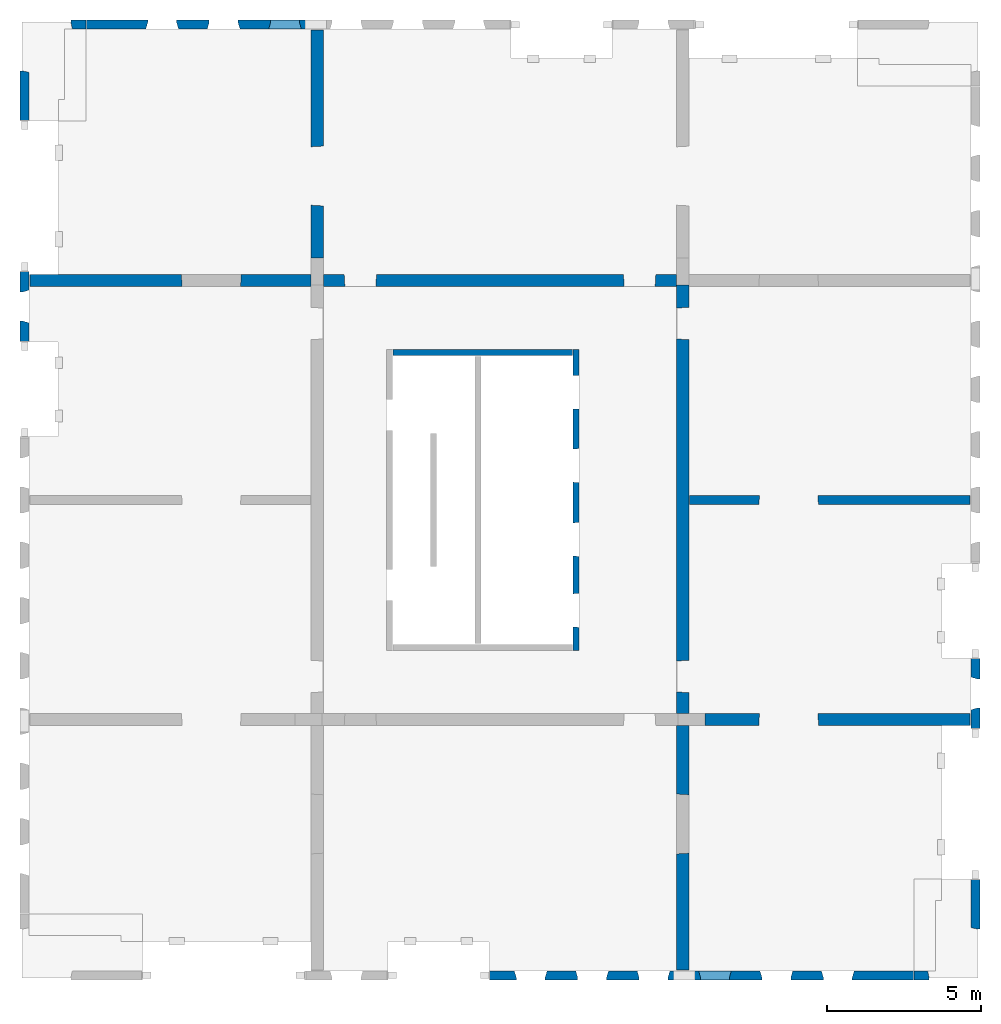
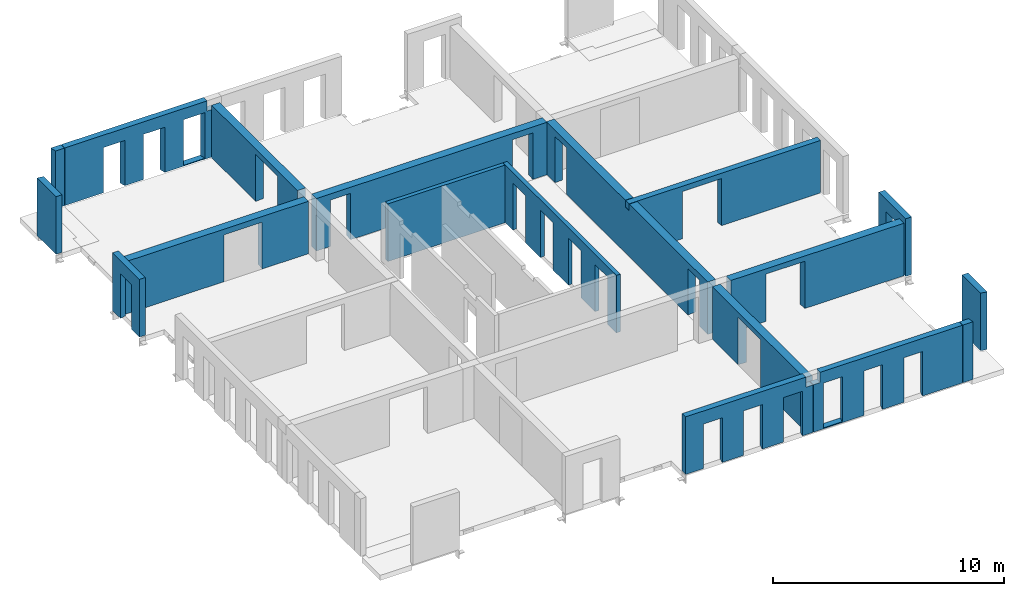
# One storey, part 3 of 4: 18 walls, 33 openings.
"""IFC2X3 building model written with IfcOpenShell, lengths in millimetres."""

import ifcopenshell
import ifcopenshell.guid

model = None  # the IFC model being written
_history = None  # IfcOwnerHistory: only IFC2X3 demands one
_inside = {}  # id of a spatial element -> (the spatial element, [elements in it])
_under = {}  # id of a project, library or spatial element -> (it, [spatial elements below it])
_declared = {}  # id of a project -> (the project, [libraries it declares])
_typed = {}  # id of a type object -> (the type object, [elements of that type])
_made_of = {}  # id of a material, layer set ... -> (it, [elements and type objects made of it])


def new_model(schema):
    """Start an empty IFC model of exactly this schema.

    Asked for "IFC4X3", IfcOpenShell would pick the latest addendum, in which some entities
    have other attributes; the version numbers below select the first issue.
    IFC2X3 requires an IfcOwnerHistory on every rooted entity: one is made here for all.
    """
    global model, _history
    if schema == "IFC4X3":
        model = ifcopenshell.file(schema_version=(4, 3, 0, 0))
    else:
        model = ifcopenshell.file(schema=schema)
    _inside.clear()
    _under.clear()
    _declared.clear()
    _typed.clear()
    _made_of.clear()
    _history = None
    if model.schema == "IFC2X3":
        org = make("IfcOrganization", Name="unknown")
        user = make(
            "IfcPersonAndOrganization",
            ThePerson=make("IfcPerson", FamilyName="unknown"),
            TheOrganization=org,
        )
        app = make(
            "IfcApplication",
            ApplicationDeveloper=org,
            Version="unknown",
            ApplicationFullName="unknown",
            ApplicationIdentifier="unknown",
        )
        _history = make(
            "IfcOwnerHistory",
            OwningUser=user,
            OwningApplication=app,
            ChangeAction="ADDED",
            CreationDate=0,
        )
    return model


def make(cls, **values):
    """One entity of the class cls with the attributes given. An attribute that is None is left unset."""
    return model.create_entity(
        cls, **{name: value for name, value in values.items() if value is not None}
    )


def entity(cls, *values):
    """Any entity or typed value of the class cls, its attributes in the order of the schema. None: left unset."""
    e = model.create_entity(cls)
    for i, value in enumerate(values):
        if value is not None:
            e[i] = value
    return e


def rooted(cls, **values):
    """An entity with a GlobalId (a new one), such as an element, a storey or a relation."""
    return make(cls, GlobalId=ifcopenshell.guid.new(), OwnerHistory=_history, **values)


def si_unit(unit_type, name, prefix=None):
    """IfcSIUnit, for example si_unit("LENGTHUNIT", "METRE", prefix="MILLI")."""
    return make("IfcSIUnit", UnitType=unit_type, Prefix=prefix, Name=name)


def converted_unit(unit_type, name, factor, base, dimensions=None, offset=None):
    """IfcConversionBasedUnit, such as the inch: factor (a typed value) times the base unit."""
    return make(
        "IfcConversionBasedUnit"
        if offset is None
        else "IfcConversionBasedUnitWithOffset",
        ConversionOffset=offset,
        Dimensions=None
        if dimensions is None
        else entity("IfcDimensionalExponents", *dimensions),
        UnitType=unit_type,
        Name=name,
        ConversionFactor=make(
            "IfcMeasureWithUnit", ValueComponent=factor, UnitComponent=base
        ),
    )


def derived_unit(unit_type, elements):
    """IfcDerivedUnit: a product of units, each with its exponent."""
    return make(
        "IfcDerivedUnit",
        Elements=[
            make("IfcDerivedUnitElement", Unit=unit, Exponent=power)
            for unit, power in elements
        ],
        UnitType=unit_type,
    )


def assignment(units):
    """IfcUnitAssignment: the units of a project."""
    return None if units is None else make("IfcUnitAssignment", Units=units)


def point(xyz):
    """IfcCartesianPoint."""
    return None if xyz is None else make("IfcCartesianPoint", Coordinates=xyz)


def direction(xyz):
    """IfcDirection."""
    return None if xyz is None else make("IfcDirection", DirectionRatios=xyz)


def frame(location, z_axis=None, x_axis=None):
    """IfcAxis2Placement3D, a coordinate frame: its origin and axes. An axis left out is left unset."""
    return make(
        "IfcAxis2Placement3D",
        Location=point(location),
        Axis=direction(z_axis),
        RefDirection=direction(x_axis),
    )


def frame_2d(location, x_axis=None):
    """IfcAxis2Placement2D, a coordinate frame in the plane: its origin and x axis."""
    return make(
        "IfcAxis2Placement2D", Location=point(location), RefDirection=direction(x_axis)
    )


def origin():
    """The frame at (0, 0, 0) with its axes left unset."""
    return frame((0.0, 0.0, 0.0))


def origin_2d_with_axis():
    """The frame at (0, 0) in the plane with the x axis (1, 0) written out."""
    return frame_2d((0.0, 0.0), x_axis=(1.0, 0.0))


def place(relative_to, where):
    """IfcLocalPlacement: puts the frame where relative to a parent placement (None: the world)."""
    return make(
        "IfcLocalPlacement", PlacementRelTo=relative_to, RelativePlacement=where
    )


def context(
    kind, dimensions, precision=None, world=None, true_north=None, identifier=None
):
    """IfcGeometricRepresentationContext, for example the 3D "Model" context."""
    return make(
        "IfcGeometricRepresentationContext",
        ContextIdentifier=identifier,
        ContextType=kind,
        CoordinateSpaceDimension=dimensions,
        Precision=precision,
        WorldCoordinateSystem=world,
        TrueNorth=true_north,
    )


def subcontext(parent, identifier, kind, view, scale=None):
    """IfcGeometricRepresentationSubContext, for example "Body" below "Model"."""
    return make(
        "IfcGeometricRepresentationSubContext",
        ContextIdentifier=identifier,
        ContextType=kind,
        ParentContext=parent,
        TargetScale=scale,
        TargetView=view,
    )


def project(units=None, contexts=None):
    """IfcProject with its units and contexts."""
    return rooted(
        "IfcProject",
        Name="project",
        RepresentationContexts=contexts,
        UnitsInContext=assignment(units),
    )


def spatial(cls, under=None, at=None, **own):
    """A site, building, storey or space (cls), placed at a placement, below another one or the project."""
    s = rooted(cls, ObjectPlacement=at, **own)
    if under is not None:
        _under.setdefault(under.id(), (under, []))[1].append(s)
    return s


def profile(cls, at=None, kind="AREA", **sizes):
    """A parametric profile (cls). Its sizes go by their IFC names, for example OverallWidth=200.0."""
    return make(cls, ProfileType=kind, Position=at, **sizes)


def rectangle(**sizes):
    """IfcRectangleProfileDef."""
    return profile("IfcRectangleProfileDef", **sizes)


def extrude(swept, where, along, depth):
    """IfcExtrudedAreaSolid: the profile swept, set in the frame where, extruded along a direction by depth."""
    return make(
        "IfcExtrudedAreaSolid",
        SweptArea=swept,
        Position=where,
        ExtrudedDirection=direction(along),
        Depth=depth,
    )


def faces_of(points, faces, orient=None, outer=None):
    """IfcFace entities. A face is a list of loops; a loop is a list of indices into points, from 0.

    orient and outer hold one flag for each loop. By default every Orientation is true, the
    first loop of a face is its IfcFaceOuterBound and the others are IfcFaceBound.
    """
    made = []
    for i, loops in enumerate(faces):
        bounds = []
        for j, loop in enumerate(loops):
            is_outer = j == 0 if outer is None else outer[i][j]
            bounds.append(
                make(
                    "IfcFaceOuterBound" if is_outer else "IfcFaceBound",
                    Bound=make("IfcPolyLoop", Polygon=[points[k] for k in loop]),
                    Orientation=True if orient is None else orient[i][j],
                )
            )
        made.append(make("IfcFace", Bounds=bounds))
    return made


def faceted_brep(points, faces, orient=None, outer=None, voids=None):
    """IfcFacetedBrep: a solid bounded by flat faces; with voids (closed shells), ...WithVoids."""
    shared = [point(p) for p in points]
    hull = make("IfcClosedShell", CfsFaces=faces_of(shared, faces, orient, outer))
    if voids is None:
        return make("IfcFacetedBrep", Outer=hull)
    return make(
        "IfcFacetedBrepWithVoids",
        Outer=hull,
        Voids=[
            make(cls, CfsFaces=faces_of(shared, fs, o, b)) for cls, fs, o, b in voids
        ],
    )


def shape(context_of_items, identifier, shape_type, items):
    """IfcShapeRepresentation: the items that make up one representation, for example the "Body"."""
    return make(
        "IfcShapeRepresentation",
        ContextOfItems=context_of_items,
        RepresentationIdentifier=identifier,
        RepresentationType=shape_type,
        Items=items,
    )


def material(Name=None, Category=None):
    """IfcMaterial."""
    return make("IfcMaterial", Name=Name, Category=Category)


def layer(
    of_material, thickness, ventilated=None, Name=None, Category=None, Priority=None
):
    """IfcMaterialLayer: one layer of a wall or slab, of a material (None: an air gap)."""
    return make(
        "IfcMaterialLayer",
        Material=of_material,
        LayerThickness=thickness,
        IsVentilated=ventilated,
        Name=Name,
        Category=Category,
        Priority=Priority,
    )


def layer_set(layers, Name=None):
    """IfcMaterialLayerSet."""
    return make("IfcMaterialLayerSet", MaterialLayers=layers, LayerSetName=Name)


def layer_usage(for_layer_set, set_direction, sense, offset, extent=None):
    """IfcMaterialLayerSetUsage: how a layer set lies in its element."""
    return make(
        "IfcMaterialLayerSetUsage",
        ForLayerSet=for_layer_set,
        LayerSetDirection=set_direction,
        DirectionSense=sense,
        OffsetFromReferenceLine=offset,
        ReferenceExtent=extent,
    )


def made_of(thing, what):
    """Note that an element or type object is made of a material, layer set ...; save() writes the relation."""
    if what is not None:
        _made_of.setdefault(what.id(), (what, []))[1].append(thing)
    return thing


def type_object(cls, material=None, **own):
    """A type object (cls), such as IfcWallType, which elements share."""
    return made_of(rooted(cls, **own), material)


def element(
    cls,
    number,
    at=None,
    inside=None,
    cuts=None,
    type_object=None,
    material=None,
    context=None,
    identifier="Body",
    shape_type=None,
    held_by="IfcProductDefinitionShape",
    body=None,
    shapes=None,
    **own,
):
    """One element of the class cls, such as IfcWall. Its Tag is "e" and its number.

    at: its placement. inside: the storey or other place that contains it. cuts: it is an
    opening in that element (IfcRelVoidsElement). A single representation is given by context,
    identifier, shape_type and body (its items); several are given by shapes. held_by: the class
    of the entity that holds the representations. save() writes the other relations.
    """
    e = rooted(cls, Tag="e%d" % number, ObjectPlacement=at, **own)
    if body is not None:
        shapes = [shape(context, identifier, shape_type, body)]
    if shapes is not None:
        e.Representation = make(held_by, Representations=shapes)
    if inside is not None:
        _inside.setdefault(inside.id(), (inside, []))[1].append(e)
    if cuts is not None:
        rooted(
            "IfcRelVoidsElement", RelatingBuildingElement=cuts, RelatedOpeningElement=e
        )
    if type_object is not None:
        _typed.setdefault(type_object.id(), (type_object, []))[1].append(e)
    return made_of(e, material)


def aggregate(whole, parts):
    """IfcRelAggregates: a whole, such as a stair, and the parts it consists of."""
    return rooted("IfcRelAggregates", RelatingObject=whole, RelatedObjects=parts)


def save(model, path):
    """Write the relations noted so far, then the file.

    IfcRelAggregates (storeys below a building ...), IfcRelContainedInSpatialStructure (elements
    in a storey), IfcRelDefinesByType, IfcRelAssociatesMaterial and IfcRelDeclares: one each for
    every whole, place, type object, material and project.
    """
    for whole, parts in _under.values():
        aggregate(whole, parts)
    for where, things in _inside.values():
        rooted(
            "IfcRelContainedInSpatialStructure",
            RelatedElements=things,
            RelatingStructure=where,
        )
    for kind, things in _typed.values():
        rooted("IfcRelDefinesByType", RelatedObjects=things, RelatingType=kind)
    for what, things in _made_of.values():
        rooted("IfcRelAssociatesMaterial", RelatedObjects=things, RelatingMaterial=what)
    for by, libraries in _declared.values():
        rooted("IfcRelDeclares", RelatingContext=by, RelatedDefinitions=libraries)
    model.write(path)


model = new_model("IFC2X3")

# Units and contexts
model_context = context("Model", 3, precision=0.01, world=origin(), true_north=direction((6.12303176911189e-17, 1.0)))
body_context = subcontext(model_context, "Body", "Model", "MODEL_VIEW")
ifc_project = project(units=[si_unit("LENGTHUNIT", "METRE", prefix="MILLI"), si_unit("AREAUNIT", "SQUARE_METRE"), si_unit("VOLUMEUNIT", "CUBIC_METRE"), converted_unit("PLANEANGLEUNIT", "DEGREE", entity("IfcRatioMeasure", 0.0174532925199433), si_unit("PLANEANGLEUNIT", "RADIAN"), dimensions=[0, 0, 0, 0, 0, 0, 0]), si_unit("MASSUNIT", "GRAM", prefix="KILO"), derived_unit("MASSDENSITYUNIT", [(si_unit("MASSUNIT", "GRAM", prefix="KILO"), 1), (si_unit("LENGTHUNIT", "METRE"), -3)]), si_unit("TIMEUNIT", "SECOND"), si_unit("FREQUENCYUNIT", "HERTZ"), si_unit("THERMODYNAMICTEMPERATUREUNIT", "DEGREE_CELSIUS"), derived_unit("THERMALTRANSMITTANCEUNIT", [(si_unit("MASSUNIT", "GRAM", prefix="KILO"), 1), (si_unit("THERMODYNAMICTEMPERATUREUNIT", "KELVIN"), -1), (si_unit("TIMEUNIT", "SECOND"), -3)]), derived_unit("VOLUMETRICFLOWRATEUNIT", [(si_unit("LENGTHUNIT", "METRE"), 3), (si_unit("TIMEUNIT", "SECOND"), -1)]), si_unit("ELECTRICCURRENTUNIT", "AMPERE"), si_unit("ELECTRICVOLTAGEUNIT", "VOLT"), si_unit("POWERUNIT", "WATT"), si_unit("FORCEUNIT", "NEWTON", prefix="KILO"), si_unit("ILLUMINANCEUNIT", "LUX"), si_unit("LUMINOUSFLUXUNIT", "LUMEN"), si_unit("LUMINOUSINTENSITYUNIT", "CANDELA"), derived_unit("USERDEFINED", [(si_unit("MASSUNIT", "GRAM", prefix="KILO"), -1), (si_unit("LENGTHUNIT", "METRE"), -2), (si_unit("TIMEUNIT", "SECOND"), 3), (si_unit("LUMINOUSFLUXUNIT", "LUMEN"), 1)]), derived_unit("LINEARVELOCITYUNIT", [(si_unit("LENGTHUNIT", "METRE"), 1), (si_unit("TIMEUNIT", "SECOND"), -1)]), si_unit("PRESSUREUNIT", "PASCAL"), derived_unit("USERDEFINED", [(si_unit("LENGTHUNIT", "METRE"), -2), (si_unit("MASSUNIT", "GRAM", prefix="KILO"), 1), (si_unit("TIMEUNIT", "SECOND"), -2)])], contexts=[model_context])

# Site, building, storey
site_placement = place(None, origin())
site = spatial("IfcSite", under=ifc_project, at=site_placement, Name="Default", CompositionType="ELEMENT")
building_placement = place(site_placement, origin())
building = spatial("IfcBuilding", under=site, at=building_placement, Name="niet gebruiken", CompositionType="ELEMENT")
storey_placement = place(building_placement, frame((0.0, 0.0, 82260.0)))
storey = spatial("IfcBuildingStorey", under=building, at=storey_placement, Name="26 zesentwintigste verdieping", CompositionType="ELEMENT", Elevation=82260.0000000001)

# Wall, openings
ifc_material = material(Name="NLRS_f2_beton prefab")
ifc_layer_1 = layer(ifc_material, 200.0)
ifc_layer_set_1 = layer_set([ifc_layer_1], Name="Basic Wall:NLRS_22.21_WA_beton prefab d=200_gen")
ifc_layer_usage_1 = layer_usage(ifc_layer_set_1, "AXIS2", "NEGATIVE", 100.0)
wall_type_1 = type_object("IfcWallType", Name="Basic Wall:NLRS_22.21_WA_beton prefab d=200_gen", PredefinedType="STANDARD", material=ifc_layer_set_1)
wall_1_placement = place(storey_placement, frame((144230.0, 22400.0, -50.0), z_axis=(0.0, 0.0, 1.0), x_axis=(0.0, -1.0, 0.0)))
wall_1 = element("IfcWallStandardCase", 1, at=wall_1_placement, inside=storey, type_object=wall_type_1, material=ifc_layer_usage_1, Name="Basic Wall:NLRS_22.21_WA_beton prefab d=200_gen", ObjectType="Basic Wall:NLRS_22.21_WA_beton prefab d=200_gen", context=body_context, shape_type="SweptSolid", body=[
    extrude(rectangle(XDim=9800.0, YDim=199.999999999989, at=frame_2d((4900.0, -3.69482222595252e-13), x_axis=(-1.0, 0.0))), origin(), (0.0, 0.0, 1.0), 3040.0),
])
opening_1_placement = place(wall_1_placement, frame((9047.0, -100.0, 0.0)))
element("IfcOpeningElement", 2, at=opening_1_placement, cuts=wall_1, Name="Basic Wall:NLRS_22.21_WA_beton prefab d=200_gen", ObjectType="Opening", context=body_context, shape_type="Brep", body=[
    faceted_brep([(-1104.0, 200.0, 2502.0), (-1104.0, 200.0, 0.0), (-1092.0, 0.0, 0.0), (-1092.0, 0.0, 2490.0), (0.0, 200.0, 0.0), (-12.0, 0.0, 0.0), (-12.0, 0.0, 2490.0), (0.0, 200.0, 2502.0)], [[[0, 1, 2, 3]], [[1, 4, 5, 2]], [[6, 3, 2, 5]], [[7, 4, 1, 0]], [[7, 0, 3, 6]], [[4, 7, 6, 5]]]),
])
opening_2_placement = place(wall_1_placement, frame((6737.0, -100.0, 0.0)))
element("IfcOpeningElement", 3, at=opening_2_placement, cuts=wall_1, Name="Basic Wall:NLRS_22.21_WA_beton prefab d=200_gen", ObjectType="Opening", context=body_context, shape_type="Brep", body=[
    faceted_brep([(-1104.0, 200.0, 2502.0), (-1104.0, 200.0, 0.0), (-1092.0, 0.0, 0.0), (-1092.0, 0.0, 2490.0), (0.0, 200.0, 0.0), (-12.0, 0.0, 0.0), (-12.0, 0.0, 2490.0), (0.0, 200.0, 2502.0)], [[[0, 1, 2, 3]], [[1, 4, 5, 2]], [[6, 3, 2, 5]], [[7, 4, 1, 0]], [[7, 0, 3, 6]], [[4, 7, 6, 5]]]),
])
opening_3_placement = place(wall_1_placement, frame((4332.0, -100.0, 0.0)))
element("IfcOpeningElement", 4, at=opening_3_placement, cuts=wall_1, Name="Basic Wall:NLRS_22.21_WA_beton prefab d=200_gen", ObjectType="Opening", context=body_context, shape_type="Brep", body=[
    faceted_brep([(-1104.0, 200.0, 2502.0), (-1104.0, 200.0, 0.0), (-1092.0, 0.0, 0.0), (-1092.0, 0.0, 2490.0), (0.0, 200.0, 0.0), (-12.0, 0.0, 0.0), (-12.0, 0.0, 2490.0), (0.0, 200.0, 2502.0)], [[[0, 1, 2, 3]], [[1, 4, 5, 2]], [[6, 3, 2, 5]], [[7, 4, 1, 0]], [[7, 0, 3, 6]], [[4, 7, 6, 5]]]),
])
opening_4_placement = place(wall_1_placement, frame((1942.0, -100.0, 0.0)))
element("IfcOpeningElement", 5, at=opening_4_placement, cuts=wall_1, Name="Basic Wall:NLRS_22.21_WA_beton prefab d=200_gen", ObjectType="Opening", context=body_context, shape_type="Brep", body=[
    faceted_brep([(-1104.0, 200.0, 2502.0), (-1104.0, 200.0, 0.0), (-1092.0, 0.0, 0.0), (-1092.0, 0.0, 2490.0), (0.0, 200.0, 0.0), (-12.0, 0.0, 0.0), (-12.0, 0.0, 2490.0), (0.0, 200.0, 2502.0)], [[[0, 1, 2, 3]], [[1, 4, 5, 2]], [[6, 3, 2, 5]], [[7, 4, 1, 0]], [[7, 0, 3, 6]], [[4, 7, 6, 5]]]),
])

# Wall
ifc_layer_usage_2 = layer_usage(ifc_layer_set_1, "AXIS2", "NEGATIVE", 100.0)
wall_2_placement = place(storey_placement, frame((138270.0, 22300.0, -50.0)))
element("IfcWallStandardCase", 6, at=wall_2_placement, inside=storey, type_object=wall_type_1, material=ifc_layer_usage_2, Name="Basic Wall:NLRS_22.21_WA_beton prefab d=200_gen", ObjectType="Basic Wall:NLRS_22.21_WA_beton prefab d=200_gen", context=body_context, shape_type="SweptSolid", body=[
    extrude(rectangle(XDim=5839.99999999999, YDim=199.999999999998, at=frame_2d((2919.99999999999, -7.60280727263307e-13), x_axis=(-1.0, 0.0))), origin(), (0.0, 0.0, 1.0), 3040.0),
])

# Wall, openings
ifc_layer_2 = layer(ifc_material, 300.0)
ifc_layer_set_2 = layer_set([ifc_layer_2], Name="Basic Wall:NLRS_22.21_WA_beton prefab d=300_gen")
ifc_layer_usage_3 = layer_usage(ifc_layer_set_2, "AXIS2", "NEGATIVE", 150.0)
wall_type_2 = type_object("IfcWallType", Name="Basic Wall:NLRS_22.21_WA_beton prefab d=300_gen", PredefinedType="STANDARD", material=ifc_layer_set_2)
wall_3_placement = place(storey_placement, frame((157060.0, 17500.0, -70.0), z_axis=(0.0, 0.0, 1.0), x_axis=(-1.0, 0.0, 0.0)))
wall_3 = element("IfcWallStandardCase", 7, at=wall_3_placement, inside=storey, type_object=wall_type_2, material=ifc_layer_usage_3, Name="Basic Wall:NLRS_22.21_WA_beton prefab d=300_gen", ObjectType="Basic Wall:NLRS_22.21_WA_beton prefab d=300_gen", context=body_context, shape_type="SweptSolid", body=[
    extrude(rectangle(XDim=9559.9999999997, YDim=300.000000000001, at=frame_2d((4779.99999999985, -1.84741111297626e-13), x_axis=(-1.0, 0.0))), origin(), (0.0, 0.0, 1.0), 2769.99999999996),
])
opening_5_placement = place(wall_3_placement, frame((6878.0, 150.0, 0.0)))
element("IfcOpeningElement", 8, at=opening_5_placement, cuts=wall_3, Name="Basic Wall:NLRS_22.21_WA_beton prefab d=300_gen", ObjectType="Opening", context=body_context, shape_type="Brep", body=[
    faceted_brep([(-18.0, -300.0, 2470.0), (-1918.0, -300.0, 2470.0), (-1918.0, -300.0, 0.0), (-18.0, -300.0, 0.0), (0.0, 0.0, 2488.0), (0.0, 0.0, 0.0), (-1936.0, 0.0, 0.0), (-1936.0, 0.0, 2488.0)], [[[0, 1, 2, 3]], [[4, 5, 6, 7]], [[4, 7, 1, 0]], [[7, 6, 2, 1]], [[6, 5, 3, 2]], [[5, 4, 0, 3]]]),
])
opening_6_placement = place(wall_3_placement, origin())
element("IfcOpeningElement", 9, at=opening_6_placement, cuts=wall_3, Name="Basic Wall:NLRS_22.21_WA_beton prefab d=300_gen", ObjectType="Opening", context=body_context, shape_type="SweptSolid", body=[
    extrude(rectangle(XDim=2439.99999999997, YDim=420.000000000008, at=frame_2d((0.0, 0.0), x_axis=(0.0, 1.0))), frame((9350.0, 150.0, 1220.0), z_axis=(0.0, -1.0, 0.0), x_axis=(1.0, 0.0, 0.0)), (0.0, 0.0, 1.0), 300.0),
])

# Wall, opening
ifc_layer_3 = layer(ifc_material, 400.0)
ifc_layer_set_3 = layer_set([ifc_layer_3], Name="Basic Wall:NLRS_22.21_WA_beton prefab d=400_gen")
ifc_layer_usage_4 = layer_usage(ifc_layer_set_3, "AXIS2", "NEGATIVE", 200.0)
wall_type_3 = type_object("IfcWallType", Name="Basic Wall:NLRS_22.21_WA_beton prefab d=400_gen", PredefinedType="STANDARD", material=ifc_layer_set_3)
wall_4_placement = place(storey_placement, frame((147700.0, 10150.0, -70.0), z_axis=(0.0, 0.0, 1.0), x_axis=(0.0, -1.0, 0.0)))
wall_4 = element("IfcWallStandardCase", 10, at=wall_4_placement, inside=storey, type_object=wall_type_3, material=ifc_layer_usage_4, Name="Basic Wall:NLRS_22.21_WA_beton prefab d=400_gen", ObjectType="Basic Wall:NLRS_22.21_WA_beton prefab d=400_gen", context=body_context, shape_type="SweptSolid", body=[
    extrude(rectangle(XDim=7960.00000000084, YDim=400.000000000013, at=frame_2d((3980.00000000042, -7.105427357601e-14), x_axis=(-1.0, 0.0))), origin(), (0.0, 0.0, 1.0), 2770.00000000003),
])
opening_7_placement = place(wall_4_placement, frame((4174.0, -200.0, 0.0)))
element("IfcOpeningElement", 11, at=opening_7_placement, cuts=wall_4, Name="Basic Wall:NLRS_22.21_WA_beton prefab d=400_gen", ObjectType="Opening", context=body_context, shape_type="Brep", body=[
    faceted_brep([(-24.0, 400.0, 2470.0), (-24.0, 400.0, 0.0), (-1924.0, 400.0, 0.0), (-1924.0, 400.0, 2470.0), (0.0, 0.0, 2494.0), (-1948.0, 0.0, 2494.0), (-1948.0, 0.0, 0.0), (0.0, 0.0, 0.0)], [[[0, 1, 2, 3]], [[4, 5, 6, 7]], [[4, 0, 3, 5]], [[5, 3, 2, 6]], [[6, 2, 1, 7]], [[7, 1, 0, 4]]]),
])

ifc_layer_usage_5 = layer_usage(ifc_layer_set_3, "AXIS2", "NEGATIVE", 200.0)
wall_5_placement = place(storey_placement, frame((135600.0, 24650.0, -70.0), z_axis=(0.0, 0.0, 1.0), x_axis=(-1.0, 0.0, 0.0)))
wall_5 = element("IfcWallStandardCase", 12, at=wall_5_placement, inside=storey, type_object=wall_type_3, material=ifc_layer_usage_5, Name="Basic Wall:NLRS_22.21_WA_beton prefab d=400_gen", ObjectType="Basic Wall:NLRS_22.21_WA_beton prefab d=400_gen", context=body_context, shape_type="SweptSolid", body=[
    extrude(rectangle(XDim=9159.99999999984, YDim=399.999999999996, at=frame_2d((4579.99999999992, -1.36424205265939e-12), x_axis=(-1.0, 0.0))), origin(), (0.0, 0.0, 1.0), 2770.00000000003),
])
opening_8_placement = place(wall_5_placement, frame((4224.0, 200.0, 0.0)))
element("IfcOpeningElement", 13, at=opening_8_placement, cuts=wall_5, Name="Basic Wall:NLRS_22.21_WA_beton prefab d=400_gen", ObjectType="Opening", context=body_context, shape_type="Brep", body=[
    faceted_brep([(-1924.0, 0.0, 2470.0), (-24.0, 0.0, 2470.0), (-24.0, 0.0, 0.0), (-1924.0, 0.0, 0.0), (-1948.0, -400.0, 2494.0), (-1948.0, -400.0, 0.0), (0.0, -400.0, 0.0), (0.0, -400.0, 2494.0)], [[[0, 1, 2, 3]], [[4, 5, 6, 7]], [[4, 7, 1, 0]], [[7, 6, 2, 1]], [[6, 5, 3, 2]], [[5, 4, 0, 3]]]),
])

ifc_layer_usage_6 = layer_usage(ifc_layer_set_3, "AXIS2", "NEGATIVE", 200.0)
wall_6_placement = place(storey_placement, frame((148430.0, 10350.0, -70.0)))
wall_6 = element("IfcWallStandardCase", 14, at=wall_6_placement, inside=storey, type_object=wall_type_3, material=ifc_layer_usage_6, Name="Basic Wall:NLRS_22.21_WA_beton prefab d=400_gen", ObjectType="Basic Wall:NLRS_22.21_WA_beton prefab d=400_gen", context=body_context, shape_type="SweptSolid", body=[
    extrude(rectangle(XDim=8630.00000000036, YDim=400.0, at=frame_2d((4315.00000000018, 0.0), x_axis=(-1.0, 0.0))), origin(), (0.0, 0.0, 1.0), 2770.00000000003),
])
opening_9_placement = place(wall_6_placement, frame((1746.0, -200.0, 0.0)))
element("IfcOpeningElement", 15, at=opening_9_placement, cuts=wall_6, Name="Basic Wall:NLRS_22.21_WA_beton prefab d=400_gen", ObjectType="Opening", context=body_context, shape_type="Brep", body=[
    faceted_brep([(24.0, 400.0, 2470.0), (1924.0, 400.0, 2470.0), (1924.0, 400.0, 0.0), (24.0, 400.0, 0.0), (0.0, 0.0, 2494.0), (0.0, 0.0, 0.0), (1948.0, 0.0, 0.0), (1948.0, 0.0, 2494.0)], [[[0, 1, 2, 3]], [[4, 5, 6, 7]], [[4, 7, 1, 0]], [[7, 6, 2, 1]], [[6, 5, 3, 2]], [[5, 4, 0, 3]]]),
])

ifc_layer_usage_7 = layer_usage(ifc_layer_set_3, "AXIS2", "NEGATIVE", 200.0)
wall_7_placement = place(storey_placement, frame((135800.0, 25380.0, -70.0), z_axis=(0.0, 0.0, 1.0), x_axis=(0.0, 1.0, 0.0)))
wall_7 = element("IfcWallStandardCase", 16, at=wall_7_placement, inside=storey, type_object=wall_type_3, material=ifc_layer_usage_7, Name="Basic Wall:NLRS_22.21_WA_beton prefab d=400_gen", ObjectType="Basic Wall:NLRS_22.21_WA_beton prefab d=400_gen", context=body_context, shape_type="SweptSolid", body=[
    extrude(rectangle(XDim=7430.00000000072, YDim=400.000000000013, at=frame_2d((3715.00000000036, -5.62749846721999e-12), x_axis=(-1.0, 0.0))), origin(), (0.0, 0.0, 1.0), 2770.00000000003),
])
opening_10_placement = place(wall_7_placement, frame((1696.0, 200.0, 0.0)))
element("IfcOpeningElement", 17, at=opening_10_placement, cuts=wall_7, Name="Basic Wall:NLRS_22.21_WA_beton prefab d=400_gen", ObjectType="Opening", context=body_context, shape_type="Brep", body=[
    faceted_brep([(1924.0, 0.0, 2470.0), (1924.0, 0.0, 0.0), (24.0, 0.0, 0.0), (24.0, 0.0, 2470.0), (1948.0, -400.0, 2494.0), (0.0, -400.0, 2494.0), (0.0, -400.0, 0.0), (1948.0, -400.0, 0.0)], [[[0, 1, 2, 3]], [[4, 5, 6, 7]], [[4, 0, 3, 5]], [[5, 3, 2, 6]], [[6, 2, 1, 7]], [[7, 1, 0, 4]]]),
])

# Wall, openings
ifc_layer_usage_8 = layer_usage(ifc_layer_set_3, "AXIS2", "NEGATIVE", 200.0)
wall_8_placement = place(storey_placement, frame((147700.0, 24500.0, -70.0), z_axis=(0.0, 0.0, 1.0), x_axis=(0.0, -1.0, 0.0)))
wall_8 = element("IfcWallStandardCase", 18, at=wall_8_placement, inside=storey, type_object=wall_type_3, material=ifc_layer_usage_8, Name="Basic Wall:NLRS_22.21_WA_beton prefab d=400_gen", ObjectType="Basic Wall:NLRS_22.21_WA_beton prefab d=400_gen", context=body_context, shape_type="SweptSolid", body=[
    extrude(rectangle(XDim=13949.9999999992, YDim=400.000000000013, at=frame_2d((6974.9999999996, 2.8421709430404e-14), x_axis=(-1.0, 0.0))), origin(), (0.0, 0.0, 1.0), 2770.00000000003),
])
opening_11_placement = place(wall_8_placement, frame((13274.0, -200.0, 0.0)))
element("IfcOpeningElement", 19, at=opening_11_placement, cuts=wall_8, Name="Basic Wall:NLRS_22.21_WA_beton prefab d=400_gen", ObjectType="Opening", context=body_context, shape_type="Brep", body=[
    faceted_brep([(-1054.0, 400.0, 2472.0), (-1054.0, 400.0, 0.0), (-1030.0, 0.0, 0.0), (-1030.0, 0.0, 2448.0), (0.0, 400.0, 0.0), (-24.0, 0.0, 0.0), (-24.0, 0.0, 2448.0), (0.0, 400.0, 2472.0)], [[[0, 1, 2, 3]], [[1, 4, 5, 2]], [[6, 3, 2, 5]], [[7, 4, 1, 0]], [[7, 0, 3, 6]], [[4, 7, 6, 5]]]),
])
opening_12_placement = place(wall_8_placement, frame((1780.0, -200.0, 0.0)))
element("IfcOpeningElement", 20, at=opening_12_placement, cuts=wall_8, Name="Basic Wall:NLRS_22.21_WA_beton prefab d=400_gen", ObjectType="Opening", context=body_context, shape_type="Brep", body=[
    faceted_brep([(-1054.0, 400.0, 2472.0), (-1054.0, 400.0, 0.0), (-1030.0, 0.0, 0.0), (-1030.0, 0.0, 2448.0), (0.0, 400.0, 0.0), (-24.0, 0.0, 0.0), (-24.0, 0.0, 2448.0), (0.0, 400.0, 2472.0)], [[[0, 1, 2, 3]], [[1, 4, 5, 2]], [[6, 3, 2, 5]], [[7, 4, 1, 0]], [[7, 0, 3, 6]], [[4, 7, 6, 5]]]),
])
opening_13_placement = place(wall_8_placement, origin())
element("IfcOpeningElement", 21, at=opening_13_placement, cuts=wall_8, Name="Basic Wall:NLRS_22.21_WA_beton prefab d=400_gen", ObjectType="Opening", context=body_context, shape_type="SweptSolid", body=[
    extrude(rectangle(XDim=350.000000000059, YDim=339.999999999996, at=frame_2d((0.0, 0.0), x_axis=(0.0, 1.0))), frame((7000.0, 200.0, 2595.0), z_axis=(0.0, -1.0, 0.0), x_axis=(-1.0, 0.0, 0.0)), (0.0, 0.0, 1.0), 400.0),
])

ifc_layer_usage_9 = layer_usage(ifc_layer_set_3, "AXIS2", "NEGATIVE", 200.0)
wall_9_placement = place(storey_placement, frame((136000.0, 24650.0, -70.0)))
wall_9 = element("IfcWallStandardCase", 22, at=wall_9_placement, inside=storey, type_object=wall_type_3, material=ifc_layer_usage_9, Name="Basic Wall:NLRS_22.21_WA_beton prefab d=400_gen", ObjectType="Basic Wall:NLRS_22.21_WA_beton prefab d=400_gen", context=body_context, shape_type="SweptSolid", body=[
    extrude(rectangle(XDim=11499.9999999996, YDim=400.000000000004, at=frame_2d((5749.99999999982, -1.09423581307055e-12), x_axis=(-1.0, 0.0))), origin(), (0.0, 0.0, 1.0), 2770.00000000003),
])
opening_14_placement = place(wall_9_placement, frame((676.0, -200.0, 0.0)))
element("IfcOpeningElement", 23, at=opening_14_placement, cuts=wall_9, Name="Basic Wall:NLRS_22.21_WA_beton prefab d=400_gen", ObjectType="Opening", context=body_context, shape_type="Brep", body=[
    faceted_brep([(0.0, 400.0, 2472.0), (0.0, 400.0, 0.0), (24.0, 0.0, 0.0), (24.0, 0.0, 2448.0), (1054.0, 400.0, 0.0), (1030.0, 0.0, 0.0), (1030.0, 0.0, 2448.0), (1054.0, 400.0, 2472.0)], [[[0, 1, 2, 3]], [[1, 4, 5, 2]], [[6, 3, 2, 5]], [[7, 4, 1, 0]], [[7, 0, 3, 6]], [[4, 7, 6, 5]]]),
])
opening_15_placement = place(wall_9_placement, frame((9770.0, -200.0, 0.0)))
element("IfcOpeningElement", 24, at=opening_15_placement, cuts=wall_9, Name="Basic Wall:NLRS_22.21_WA_beton prefab d=400_gen", ObjectType="Opening", context=body_context, shape_type="Brep", body=[
    faceted_brep([(0.0, 400.0, 2472.0), (0.0, 400.0, 0.0), (24.0, 0.0, 0.0), (24.0, 0.0, 2448.0), (1054.0, 400.0, 0.0), (1030.0, 0.0, 0.0), (1030.0, 0.0, 2448.0), (1054.0, 400.0, 2472.0)], [[[0, 1, 2, 3]], [[1, 4, 5, 2]], [[6, 3, 2, 5]], [[7, 4, 1, 0]], [[7, 0, 3, 6]], [[4, 7, 6, 5]]]),
])

# Wall, opening
ifc_layer_4 = layer(ifc_material, 300.0)
ifc_layer_set_4 = layer_set([ifc_layer_4], Name="Basic Wall:NLRS_21.21_WA_beton prefab d=300/320_gen")
ifc_layer_usage_10 = layer_usage(ifc_layer_set_4, "AXIS2", "NEGATIVE", 150.0)
wall_type_4 = type_object("IfcWallType", Name="Basic Wall:NLRS_21.21_WA_beton prefab d=300/320_gen", PredefinedType="STANDARD", material=ifc_layer_set_4)
wall_10_placement = place(storey_placement, frame((157230.0, 12360.0, -50.0), z_axis=(0.0, 0.0, 1.0), x_axis=(0.0, -1.0, 0.0)))
wall_10 = element("IfcWallStandardCase", 25, at=wall_10_placement, inside=storey, type_object=wall_type_4, material=ifc_layer_usage_10, Name="Basic Wall:NLRS_21.21_WA_beton prefab d=300/320_gen", ObjectType="Basic Wall:NLRS_21.21_WA_beton prefab d=300/320_gen", context=body_context, shape_type="SweptSolid", body=[
    extrude(rectangle(XDim=2320.00000000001, YDim=300.000000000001, at=frame_2d((1160.0, -8.38440428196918e-12), x_axis=(-1.0, 0.0))), origin(), (0.0, 0.0, 1.0), 3040.0),
])
opening_16_placement = place(wall_10_placement, frame((1695.0, -150.0, -20.0)))
element("IfcOpeningElement", 26, at=opening_16_placement, cuts=wall_10, Name="Basic Wall:NLRS_21.21_WA_beton prefab d=300/320_gen", ObjectType="Opening", context=body_context, shape_type="Brep", body=[
    faceted_brep([(-1070.0, 0.0, 2405.0), (-1070.0, 0.0, 0.0), (0.0, 0.0, 0.0), (0.0, 0.0, 2405.0), (-65.0, 219.0, 2370.0), (-1005.0, 219.0, 2370.0), (-65.0, 219.0, 0.0), (-1005.0, 219.0, 0.0), (-1005.0, 300.0, 0.0), (-65.0, 300.0, 0.0), (-1005.0, 300.0, 2370.0), (-65.0, 300.0, 2370.0)], [[[0, 1, 2, 3]], [[3, 4, 5, 0]], [[2, 6, 4, 3]], [[1, 7, 8, 9, 6, 2]], [[0, 5, 7, 1]], [[10, 11, 9, 8]], [[10, 5, 4, 11]], [[11, 4, 6, 9]], [[8, 7, 5, 10]]]),
])

ifc_layer_usage_11 = layer_usage(ifc_layer_set_4, "AXIS2", "NEGATIVE", 150.0)
wall_11_placement = place(storey_placement, frame((126270.0, 22640.0, -50.0), z_axis=(0.0, 0.0, 1.0), x_axis=(0.0, 1.0, 0.0)))
wall_11 = element("IfcWallStandardCase", 27, at=wall_11_placement, inside=storey, type_object=wall_type_4, material=ifc_layer_usage_11, Name="Basic Wall:NLRS_21.21_WA_beton prefab d=300/320_gen", ObjectType="Basic Wall:NLRS_21.21_WA_beton prefab d=300/320_gen", context=body_context, shape_type="SweptSolid", body=[
    extrude(rectangle(XDim=2320.0, YDim=300.000000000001, at=frame_2d((1160.0, -3.60955709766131e-12), x_axis=(-1.0, 0.0))), origin(), (0.0, 0.0, 1.0), 3040.0),
])
opening_17_placement = place(wall_11_placement, frame((625.0, 150.0, -20.0)))
element("IfcOpeningElement", 28, at=opening_17_placement, cuts=wall_11, Name="Basic Wall:NLRS_21.21_WA_beton prefab d=300/320_gen", ObjectType="Opening", context=body_context, shape_type="Brep", body=[
    faceted_brep([(0.0, -300.0, 2405.0), (0.0, -300.0, 0.0), (1070.0, -300.0, 0.0), (1070.0, -300.0, 2405.0), (1005.0, -81.0, 2370.0), (65.0, -81.0, 2370.0), (1005.0, -81.0, 0.0), (65.0, -81.0, 0.0), (65.0, 0.0, 0.0), (1005.0, 0.0, 0.0), (65.0, 0.0, 2370.0), (1005.0, 0.0, 2370.0)], [[[0, 1, 2, 3]], [[3, 4, 5, 0]], [[2, 6, 4, 3]], [[1, 7, 8, 9, 6, 2]], [[0, 5, 7, 1]], [[10, 11, 9, 8]], [[10, 5, 4, 11]], [[11, 4, 6, 9]], [[8, 7, 5, 10]]]),
])

# Wall, openings
ifc_layer_usage_12 = layer_usage(ifc_layer_set_4, "AXIS2", "NEGATIVE", 150.0)
wall_12_placement = place(storey_placement, frame((128290.0, 32980.0, -50.0)))
wall_12 = element("IfcWallStandardCase", 29, at=wall_12_placement, inside=storey, type_object=wall_type_4, material=ifc_layer_usage_12, Name="Basic Wall:NLRS_21.21_WA_beton prefab d=300/320_gen", ObjectType="Basic Wall:NLRS_21.21_WA_beton prefab d=300/320_gen", context=body_context, shape_type="SweptSolid", body=[
    extrude(rectangle(XDim=7449.9999999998, YDim=300.000000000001, at=frame_2d((3724.9999999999, 0.0), x_axis=(-1.0, 0.0))), origin(), (0.0, 0.0, 1.0), 3040.0),
])
opening_18_placement = place(wall_12_placement, frame((3925.0, -150.0, -20.0)))
element("IfcOpeningElement", 30, at=opening_18_placement, cuts=wall_12, Name="Basic Wall:NLRS_21.21_WA_beton prefab d=300/320_gen", ObjectType="Opening", context=body_context, shape_type="Brep", body=[
    faceted_brep([(1070.0, 0.0, 2405.0), (0.0, 0.0, 2405.0), (0.0, 0.0, 0.0), (1070.0, 0.0, 0.0), (1005.0, 219.0, 2370.0), (65.0, 219.0, 2370.0), (65.0, 219.0, 0.0), (65.0, 300.0, 0.0), (1005.0, 300.0, 0.0), (1005.0, 219.0, 0.0), (1005.0, 300.0, 2370.0), (65.0, 300.0, 2370.0)], [[[0, 1, 2, 3]], [[1, 0, 4, 5]], [[2, 1, 5, 6]], [[3, 2, 6, 7, 8, 9]], [[0, 3, 9, 4]], [[10, 8, 7, 11]], [[10, 11, 5, 4]], [[11, 7, 6, 5]], [[8, 10, 4, 9]]]),
])
opening_19_placement = place(wall_12_placement, frame((1925.0, -150.0, -20.0)))
element("IfcOpeningElement", 31, at=opening_19_placement, cuts=wall_12, Name="Basic Wall:NLRS_21.21_WA_beton prefab d=300/320_gen", ObjectType="Opening", context=body_context, shape_type="Brep", body=[
    faceted_brep([(1070.0, 0.0, 2405.0), (0.0, 0.0, 2405.0), (0.0, 0.0, 0.0), (1070.0, 0.0, 0.0), (1005.0, 219.0, 2370.0), (65.0, 219.0, 2370.0), (65.0, 219.0, 0.0), (65.0, 300.0, 0.0), (1005.0, 300.0, 0.0), (1005.0, 219.0, 0.0), (1005.0, 300.0, 2370.0), (65.0, 300.0, 2370.0)], [[[0, 1, 2, 3]], [[1, 0, 4, 5]], [[2, 1, 5, 6]], [[3, 2, 6, 7, 8, 9]], [[0, 3, 9, 4]], [[10, 8, 7, 11]], [[10, 11, 5, 4]], [[11, 7, 6, 5]], [[8, 10, 4, 9]]]),
])
opening_20_placement = place(wall_12_placement, frame((5925.0, -150.0, 50.0)))
element("IfcOpeningElement", 32, at=opening_20_placement, cuts=wall_12, Name="Basic Wall:NLRS_21.21_WA_beton prefab d=300/320_gen", ObjectType="Opening", context=body_context, shape_type="Brep", body=[
    faceted_brep([(1070.0, 0.0, 2405.0), (0.0, 0.0, 2405.0), (0.0, 0.0, 0.0), (1070.0, 0.0, 0.0), (1005.0, 219.0, 2370.0), (65.0, 219.0, 2370.0), (65.0, 219.0, 0.0), (65.0, 300.0, 0.0), (1005.0, 300.0, 0.0), (1005.0, 219.0, 0.0), (1005.0, 300.0, 2370.0), (65.0, 300.0, 2370.0)], [[[0, 1, 2, 3]], [[1, 0, 4, 5]], [[2, 1, 5, 6]], [[3, 2, 6, 7, 8, 9]], [[0, 3, 9, 4]], [[10, 8, 7, 11]], [[10, 11, 5, 4]], [[11, 7, 6, 5]], [[8, 10, 4, 9]]]),
])
opening_21_placement = place(wall_12_placement, origin())
element("IfcOpeningElement", 33, at=opening_21_placement, cuts=wall_12, Name="Basic Wall:NLRS_21.21_WA_beton prefab d=300/320_gen", ObjectType="Opening", context=body_context, shape_type="SweptSolid", body=[
    extrude(rectangle(XDim=535.0, YDim=344.999999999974, at=origin_2d_with_axis()), frame((7277.49999999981, 150.0, 2772.5), z_axis=(0.0, -1.0, 0.0), x_axis=(0.0, 0.0, 1.0)), (0.0, 0.0, 1.0), 300.0),
])

ifc_layer_usage_13 = layer_usage(ifc_layer_set_4, "AXIS2", "NEGATIVE", 150.0)
wall_13_placement = place(storey_placement, frame((155210.0, 2020.0, -50.0), z_axis=(0.0, 0.0, 1.0), x_axis=(-1.0, 0.0, 0.0)))
wall_13 = element("IfcWallStandardCase", 34, at=wall_13_placement, inside=storey, type_object=wall_type_4, material=ifc_layer_usage_13, Name="Basic Wall:NLRS_21.21_WA_beton prefab d=300/320_gen", ObjectType="Basic Wall:NLRS_21.21_WA_beton prefab d=300/320_gen", context=body_context, shape_type="SweptSolid", body=[
    extrude(rectangle(XDim=7449.99999999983, YDim=300.0, at=frame_2d((3724.99999999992, 5.6843418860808e-14), x_axis=(-1.0, 0.0))), origin(), (0.0, 0.0, 1.0), 3040.0),
])
opening_22_placement = place(wall_13_placement, frame((4995.0, 150.0, -20.0)))
element("IfcOpeningElement", 35, at=opening_22_placement, cuts=wall_13, Name="Basic Wall:NLRS_21.21_WA_beton prefab d=300/320_gen", ObjectType="Opening", context=body_context, shape_type="Brep", body=[
    faceted_brep([(0.0, -300.0, 2405.0), (-1070.0, -300.0, 2405.0), (-1070.0, -300.0, 0.0), (0.0, -300.0, 0.0), (-65.0, -81.0, 2370.0), (-1005.0, -81.0, 2370.0), (-1005.0, -81.0, 0.0), (-1005.0, 0.0, 0.0), (-65.0, 0.0, 0.0), (-65.0, -81.0, 0.0), (-65.0, 0.0, 2370.0), (-1005.0, 0.0, 2370.0)], [[[0, 1, 2, 3]], [[1, 0, 4, 5]], [[2, 1, 5, 6]], [[3, 2, 6, 7, 8, 9]], [[0, 3, 9, 4]], [[10, 8, 7, 11]], [[10, 11, 5, 4]], [[11, 7, 6, 5]], [[8, 10, 4, 9]]]),
])
opening_23_placement = place(wall_13_placement, frame((2995.0, 150.0, -20.0)))
element("IfcOpeningElement", 36, at=opening_23_placement, cuts=wall_13, Name="Basic Wall:NLRS_21.21_WA_beton prefab d=300/320_gen", ObjectType="Opening", context=body_context, shape_type="Brep", body=[
    faceted_brep([(0.0, -300.0, 2405.0), (-1070.0, -300.0, 2405.0), (-1070.0, -300.0, 0.0), (0.0, -300.0, 0.0), (-65.0, -81.0, 2370.0), (-1005.0, -81.0, 2370.0), (-1005.0, -81.0, 0.0), (-1005.0, 0.0, 0.0), (-65.0, 0.0, 0.0), (-65.0, -81.0, 0.0), (-65.0, 0.0, 2370.0), (-1005.0, 0.0, 2370.0)], [[[0, 1, 2, 3]], [[1, 0, 4, 5]], [[2, 1, 5, 6]], [[3, 2, 6, 7, 8, 9]], [[0, 3, 9, 4]], [[10, 8, 7, 11]], [[10, 11, 5, 4]], [[11, 7, 6, 5]], [[8, 10, 4, 9]]]),
])
opening_24_placement = place(wall_13_placement, frame((6995.0, 150.0, 50.0)))
element("IfcOpeningElement", 37, at=opening_24_placement, cuts=wall_13, Name="Basic Wall:NLRS_21.21_WA_beton prefab d=300/320_gen", ObjectType="Opening", context=body_context, shape_type="Brep", body=[
    faceted_brep([(0.0, -300.0, 2405.0), (-1070.0, -300.0, 2405.0), (-1070.0, -300.0, 0.0), (0.0, -300.0, 0.0), (-65.0, -81.0, 2370.0), (-1005.0, -81.0, 2370.0), (-1005.0, -81.0, 0.0), (-1005.0, 0.0, 0.0), (-65.0, 0.0, 0.0), (-65.0, -81.0, 0.0), (-65.0, 0.0, 2370.0), (-1005.0, 0.0, 2370.0)], [[[0, 1, 2, 3]], [[1, 0, 4, 5]], [[2, 1, 5, 6]], [[3, 2, 6, 7, 8, 9]], [[0, 3, 9, 4]], [[10, 8, 7, 11]], [[10, 11, 5, 4]], [[11, 7, 6, 5]], [[8, 10, 4, 9]]]),
])
opening_25_placement = place(wall_13_placement, origin())
element("IfcOpeningElement", 38, at=opening_25_placement, cuts=wall_13, Name="Basic Wall:NLRS_21.21_WA_beton prefab d=300/320_gen", ObjectType="Opening", context=body_context, shape_type="SweptSolid", body=[
    extrude(rectangle(XDim=535.0, YDim=344.999999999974, at=origin_2d_with_axis()), frame((7277.49999999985, 150.0, 2772.5), z_axis=(0.0, -1.0, 0.0), x_axis=(0.0, 0.0, 1.0)), (0.0, 0.0, 1.0), 300.0),
])

# Wall, opening
ifc_layer_usage_14 = layer_usage(ifc_layer_set_4, "AXIS2", "NEGATIVE", 150.0)
wall_14_placement = place(storey_placement, frame((127780.0, 32980.0, -50.0)))
wall_14 = element("IfcWallStandardCase", 39, at=wall_14_placement, inside=storey, type_object=wall_type_4, material=ifc_layer_usage_14, Name="Basic Wall:NLRS_21.21_WA_beton prefab d=300/320_gen", ObjectType="Basic Wall:NLRS_21.21_WA_beton prefab d=300/320_gen", context=body_context, shape_type="SweptSolid", body=[
    extrude(rectangle(XDim=489.999999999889, YDim=300.000000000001, at=frame_2d((244.999999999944, -6.67910171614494e-13), x_axis=(-1.0, 0.0))), origin(), (0.0, 0.0, 1.0), 3040.0),
])
opening_26_placement = place(wall_14_placement, frame((0.0, -250.0, 0.0)))
element("IfcOpeningElement", 40, at=opening_26_placement, cuts=wall_14, Name="Basic Wall:NLRS_21.21_WA_beton prefab d=300/320_gen", ObjectType="Opening", context=body_context, shape_type="Brep", body=[
    faceted_brep([(0.0, 0.0, 3040.0), (65.0, 0.0, 3040.0), (0.0, 319.0, 3040.0), (0.0, 0.0, 0.0), (0.0, 319.0, 0.0), (65.0, 0.0, 0.0)], [[[0, 1, 2]], [[3, 4, 5]], [[1, 0, 3, 5]], [[0, 2, 4, 3]], [[2, 1, 5, 4]]]),
])

ifc_layer_usage_15 = layer_usage(ifc_layer_set_4, "AXIS2", "NEGATIVE", 150.0)
wall_15_placement = place(storey_placement, frame((126270.0, 29840.0, -50.0), z_axis=(0.0, 0.0, 1.0), x_axis=(0.0, 1.0, 0.0)))
wall_15 = element("IfcWallStandardCase", 41, at=wall_15_placement, inside=storey, type_object=wall_type_4, material=ifc_layer_usage_15, Name="Basic Wall:NLRS_21.21_WA_beton prefab d=300/320_gen", ObjectType="Basic Wall:NLRS_21.21_WA_beton prefab d=300/320_gen", context=body_context, shape_type="SweptSolid", body=[
    extrude(rectangle(XDim=1629.99999999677, YDim=300.000000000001, at=frame_2d((814.999999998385, 8.95283847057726e-13), x_axis=(-1.0, 0.0))), origin(), (0.0, 0.0, 1.0), 3040.0),
])
opening_27_placement = place(wall_15_placement, frame((1565.0, 69.0, 0.0)))
element("IfcOpeningElement", 42, at=opening_27_placement, cuts=wall_15, Name="Basic Wall:NLRS_21.21_WA_beton prefab d=300/320_gen", ObjectType="Opening", context=body_context, shape_type="Brep", body=[
    faceted_brep([(65.0, -319.0, 3040.0), (65.0, 0.0, 3040.0), (0.0, -319.0, 3040.0), (65.0, -319.0, 0.0), (0.0, -319.0, 0.0), (65.0, 0.0, 0.0)], [[[0, 1, 2]], [[3, 4, 5]], [[2, 4, 3, 0]], [[0, 3, 5, 1]], [[1, 5, 4, 2]]]),
])

ifc_layer_usage_16 = layer_usage(ifc_layer_set_4, "AXIS2", "NEGATIVE", 150.0)
wall_16_placement = place(storey_placement, frame((155720.0, 2020.0, -50.0), z_axis=(0.0, 0.0, 1.0), x_axis=(-1.0, 0.0, 0.0)))
wall_16 = element("IfcWallStandardCase", 43, at=wall_16_placement, inside=storey, type_object=wall_type_4, material=ifc_layer_usage_16, Name="Basic Wall:NLRS_21.21_WA_beton prefab d=300/320_gen", ObjectType="Basic Wall:NLRS_21.21_WA_beton prefab d=300/320_gen", context=body_context, shape_type="SweptSolid", body=[
    extrude(rectangle(XDim=489.999999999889, YDim=300.0, at=frame_2d((244.999999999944, 4.2632564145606e-14), x_axis=(-1.0, 0.0))), origin(), (0.0, 0.0, 1.0), 3040.0),
])
opening_28_placement = place(wall_16_placement, frame((65.0, 69.0, 0.0)))
element("IfcOpeningElement", 44, at=opening_28_placement, cuts=wall_16, Name="Basic Wall:NLRS_21.21_WA_beton prefab d=300/320_gen", ObjectType="Opening", context=body_context, shape_type="Brep", body=[
    faceted_brep([(-65.0, -319.0, 3040.0), (0.0, -319.0, 3040.0), (-65.0, 0.0, 3040.0), (-65.0, -319.0, 0.0), (-65.0, 0.0, 0.0), (0.0, -319.0, 0.0)], [[[0, 1, 2]], [[3, 4, 5]], [[1, 0, 3, 5]], [[0, 2, 4, 3]], [[2, 1, 5, 4]]]),
])

ifc_layer_usage_17 = layer_usage(ifc_layer_set_4, "AXIS2", "NEGATIVE", 150.0)
wall_17_placement = place(storey_placement, frame((157230.0, 5160.0, -50.0), z_axis=(0.0, 0.0, 1.0), x_axis=(0.0, -1.0, 0.0)))
wall_17 = element("IfcWallStandardCase", 45, at=wall_17_placement, inside=storey, type_object=wall_type_4, material=ifc_layer_usage_17, Name="Basic Wall:NLRS_21.21_WA_beton prefab d=300/320_gen", ObjectType="Basic Wall:NLRS_21.21_WA_beton prefab d=300/320_gen", context=body_context, shape_type="SweptSolid", body=[
    extrude(rectangle(XDim=1629.99999999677, YDim=300.000000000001, at=frame_2d((814.999999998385, 4.76063632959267e-12), x_axis=(-1.0, 0.0))), origin(), (0.0, 0.0, 1.0), 3040.0),
])
opening_29_placement = place(wall_17_placement, frame((1630.0, -250.0, 0.0)))
element("IfcOpeningElement", 46, at=opening_29_placement, cuts=wall_17, Name="Basic Wall:NLRS_21.21_WA_beton prefab d=300/320_gen", ObjectType="Opening", context=body_context, shape_type="Brep", body=[
    faceted_brep([(0.0, 0.0, 3040.0), (0.0, 319.0, 3040.0), (-65.0, 0.0, 3040.0), (0.0, 0.0, 0.0), (-65.0, 0.0, 0.0), (0.0, 319.0, 0.0)], [[[0, 1, 2]], [[3, 4, 5]], [[2, 4, 3, 0]], [[0, 3, 5, 1]], [[1, 5, 4, 2]]]),
])

# Wall, openings
ifc_layer_usage_18 = layer_usage(ifc_layer_set_4, "AXIS2", "NEGATIVE", 150.0)
wall_18_placement = place(storey_placement, frame((147740.0, 2020.0, -50.0), z_axis=(0.0, 0.0, 1.0), x_axis=(-1.0, 0.0, 0.0)))
wall_18 = element("IfcWallStandardCase", 47, at=wall_18_placement, inside=storey, type_object=wall_type_4, material=ifc_layer_usage_18, Name="Basic Wall:NLRS_21.21_WA_beton prefab d=300/320_gen", ObjectType="Basic Wall:NLRS_21.21_WA_beton prefab d=300/320_gen", context=body_context, shape_type="SweptSolid", body=[
    extrude(rectangle(XDim=6350.00000000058, YDim=300.0, at=frame_2d((3175.00000000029, -4.2632564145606e-14), x_axis=(-1.0, 0.0))), origin(), (0.0, 0.0, 1.0), 3040.0),
])
opening_30_placement = place(wall_18_placement, frame((1525.0, 150.0, -20.0)))
element("IfcOpeningElement", 48, at=opening_30_placement, cuts=wall_18, Name="Basic Wall:NLRS_21.21_WA_beton prefab d=300/320_gen", ObjectType="Opening", context=body_context, shape_type="Brep", body=[
    faceted_brep([(0.0, -300.0, 2405.0), (-1070.0, -300.0, 2405.0), (-1070.0, -300.0, 0.0), (0.0, -300.0, 0.0), (-65.0, -81.0, 2370.0), (-1005.0, -81.0, 2370.0), (-1005.0, -81.0, 0.0), (-1005.0, 0.0, 0.0), (-65.0, 0.0, 0.0), (-65.0, -81.0, 0.0), (-65.0, 0.0, 2370.0), (-1005.0, 0.0, 2370.0)], [[[0, 1, 2, 3]], [[1, 0, 4, 5]], [[2, 1, 5, 6]], [[3, 2, 6, 7, 8, 9]], [[0, 3, 9, 4]], [[10, 8, 7, 11]], [[10, 11, 5, 4]], [[11, 7, 6, 5]], [[8, 10, 4, 9]]]),
])
opening_31_placement = place(wall_18_placement, frame((3525.0, 150.0, -20.0)))
element("IfcOpeningElement", 49, at=opening_31_placement, cuts=wall_18, Name="Basic Wall:NLRS_21.21_WA_beton prefab d=300/320_gen", ObjectType="Opening", context=body_context, shape_type="Brep", body=[
    faceted_brep([(0.0, -300.0, 2405.0), (-1070.0, -300.0, 2405.0), (-1070.0, -300.0, 0.0), (0.0, -300.0, 0.0), (-65.0, -81.0, 2370.0), (-1005.0, -81.0, 2370.0), (-1005.0, -81.0, 0.0), (-1005.0, 0.0, 0.0), (-65.0, 0.0, 0.0), (-65.0, -81.0, 0.0), (-65.0, 0.0, 2370.0), (-1005.0, 0.0, 2370.0)], [[[0, 1, 2, 3]], [[1, 0, 4, 5]], [[2, 1, 5, 6]], [[3, 2, 6, 7, 8, 9]], [[0, 3, 9, 4]], [[10, 8, 7, 11]], [[10, 11, 5, 4]], [[11, 7, 6, 5]], [[8, 10, 4, 9]]]),
])
opening_32_placement = place(wall_18_placement, frame((5525.0, 150.0, -20.0)))
element("IfcOpeningElement", 50, at=opening_32_placement, cuts=wall_18, Name="Basic Wall:NLRS_21.21_WA_beton prefab d=300/320_gen", ObjectType="Opening", context=body_context, shape_type="Brep", body=[
    faceted_brep([(0.0, -300.0, 2405.0), (-1070.0, -300.0, 2405.0), (-1070.0, -300.0, 0.0), (0.0, -300.0, 0.0), (-65.0, -81.0, 2370.0), (-1005.0, -81.0, 2370.0), (-1005.0, -81.0, 0.0), (-1005.0, 0.0, 0.0), (-65.0, 0.0, 0.0), (-65.0, -81.0, 0.0), (-65.0, 0.0, 2370.0), (-1005.0, 0.0, 2370.0)], [[[0, 1, 2, 3]], [[1, 0, 4, 5]], [[2, 1, 5, 6]], [[3, 2, 6, 7, 8, 9]], [[0, 3, 9, 4]], [[10, 8, 7, 11]], [[10, 11, 5, 4]], [[11, 7, 6, 5]], [[8, 10, 4, 9]]]),
])
opening_33_placement = place(wall_18_placement, origin())
element("IfcOpeningElement", 51, at=opening_33_placement, cuts=wall_18, Name="Basic Wall:NLRS_21.21_WA_beton prefab d=300/320_gen", ObjectType="Opening", context=body_context, shape_type="SweptSolid", body=[
    extrude(rectangle(XDim=534.999999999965, YDim=345.000000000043, at=frame_2d((0.0, 0.0), x_axis=(0.0, 1.0))), frame((172.500000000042, 150.0, 2772.5), z_axis=(0.0, -1.0, 0.0), x_axis=(-1.0, 0.0, 0.0)), (0.0, 0.0, 1.0), 300.0),
])

save(model, "model.ifc")
